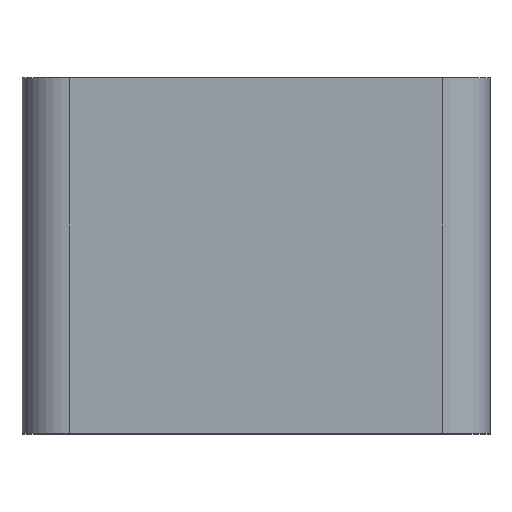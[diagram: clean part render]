
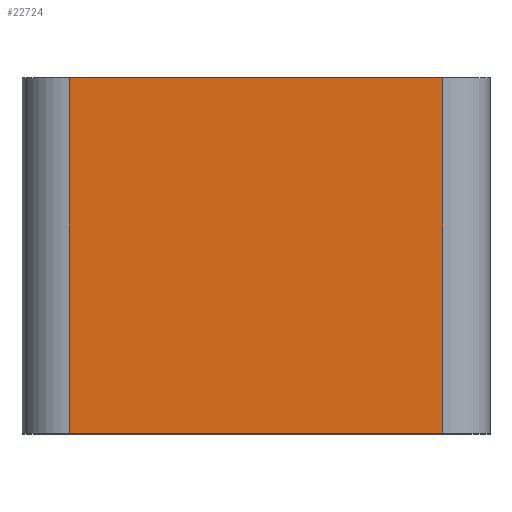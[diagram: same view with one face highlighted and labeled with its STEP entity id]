
A CAD part, top view. The second image highlights one B-rep face of the part: STEP entity #22724.
In plain terms, the highlighted planar face has unit normal (0, 0, 1).
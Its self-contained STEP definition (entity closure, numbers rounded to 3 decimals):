
#863=PLANE('',#24001);
#1981=FACE_OUTER_BOUND('',#3129,.T.);
#3129=EDGE_LOOP('',(#20590,#20591,#20592,#20593));
#3642=LINE('',#30575,#6745);
#4449=LINE('',#32329,#7552);
#6130=LINE('',#35827,#9233);
#6131=LINE('',#35829,#9234);
#6745=VECTOR('',#24640,10.);
#7552=VECTOR('',#25637,10.);
#9233=VECTOR('',#29006,10.);
#9234=VECTOR('',#29009,10.);
#10037=VERTEX_POINT('',#30572);
#10038=VERTEX_POINT('',#30574);
#10838=VERTEX_POINT('',#32326);
#10839=VERTEX_POINT('',#32328);
#12217=EDGE_CURVE('',#10037,#10038,#3642,.T.);
#13080=EDGE_CURVE('',#10838,#10839,#4449,.T.);
#14829=EDGE_CURVE('',#10839,#10037,#6130,.T.);
#14830=EDGE_CURVE('',#10038,#10838,#6131,.T.);
#20590=ORIENTED_EDGE('',*,*,#14829,.F.);
#20591=ORIENTED_EDGE('',*,*,#13080,.F.);
#20592=ORIENTED_EDGE('',*,*,#14830,.F.);
#20593=ORIENTED_EDGE('',*,*,#12217,.F.);
#22724=ADVANCED_FACE('',(#1981),#863,.T.);
#24001=AXIS2_PLACEMENT_3D('',#35828,#29007,#29008);
#24640=DIRECTION('',(-1.,0.,0.));
#25637=DIRECTION('',(1.,0.,0.));
#29006=DIRECTION('',(0.,-1.,0.));
#29007=DIRECTION('center_axis',(0.,0.,1.));
#29008=DIRECTION('ref_axis',(1.,0.,0.));
#29009=DIRECTION('',(0.,1.,0.));
#30572=CARTESIAN_POINT('',(142.,0.,178.6));
#30574=CARTESIAN_POINT('',(16.,0.,178.6));
#30575=CARTESIAN_POINT('',(158.,0.,178.6));
#32326=CARTESIAN_POINT('',(16.,120.,178.6));
#32328=CARTESIAN_POINT('',(142.,120.,178.6));
#32329=CARTESIAN_POINT('',(158.,120.,178.6));
#35827=CARTESIAN_POINT('',(142.,0.,178.6));
#35828=CARTESIAN_POINT('Origin',(0.,0.,178.6));
#35829=CARTESIAN_POINT('',(16.,0.,178.6));
